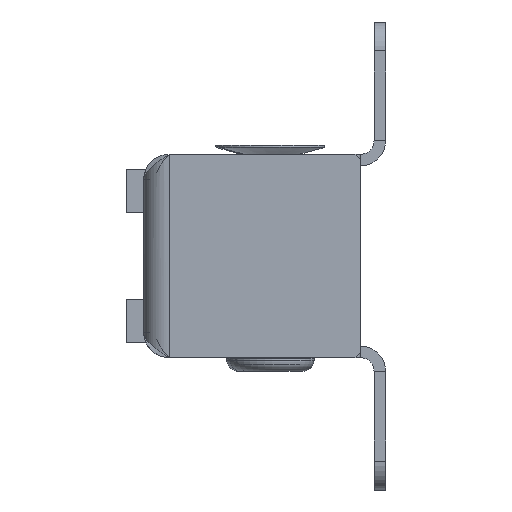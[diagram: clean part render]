
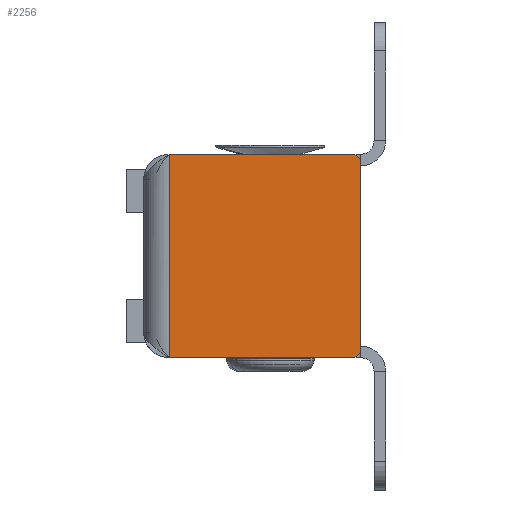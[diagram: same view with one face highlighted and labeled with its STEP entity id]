
A CAD part, left-side view. The second image highlights one B-rep face of the part: STEP entity #2256.
In plain terms, the highlighted planar face has unit normal (-1, 0, 0).
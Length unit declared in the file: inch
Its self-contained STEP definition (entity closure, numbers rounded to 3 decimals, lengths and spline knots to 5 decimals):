
#522 = DIRECTION ( 'NONE',  ( 0., 0., -1. ) ) ;
#552 = CARTESIAN_POINT ( 'NONE',  ( -9., 0.3775, 0.44062 ) ) ;
#721 = VERTEX_POINT ( 'NONE', #11559 ) ;
#1137 = DIRECTION ( 'NONE',  ( -1., 0., 0. ) ) ;
#1217 = ORIENTED_EDGE ( 'NONE', *, *, #12817, .F. ) ;
#2217 = CARTESIAN_POINT ( 'NONE',  ( -9., -0.42125, 0.40937 ) ) ;
#2256 = ADVANCED_FACE ( 'NONE', ( #10776 ), #9062, .T. ) ;
#2503 = CARTESIAN_POINT ( 'NONE',  ( -9., 0.3775, -0.44062 ) ) ;
#2553 = CARTESIAN_POINT ( 'NONE',  ( -9., 0.3775, -0.33062 ) ) ;
#2771 = CARTESIAN_POINT ( 'NONE',  ( -9., -0.42125, -0.44062 ) ) ;
#2774 = CIRCLE ( 'NONE', #7613, 0.03125 ) ;
#2869 = VERTEX_POINT ( 'NONE', #10206 ) ;
#2912 = CARTESIAN_POINT ( 'NONE',  ( -9., -0.42125, -0.40937 ) ) ;
#3115 = AXIS2_PLACEMENT_3D ( 'NONE', #2217, #1137, #12160 ) ;
#3548 = DIRECTION ( 'NONE',  ( 0., -1., 0. ) ) ;
#3731 = EDGE_CURVE ( 'NONE', #6107, #721, #11244, .T. ) ;
#3953 = DIRECTION ( 'NONE',  ( -1., 0., 0. ) ) ;
#4206 = LINE ( 'NONE', #2503, #10443 ) ;
#4213 = EDGE_CURVE ( 'NONE', #2869, #5687, #4206, .T. ) ;
#4763 = ORIENTED_EDGE ( 'NONE', *, *, #4213, .T. ) ;
#4776 = LINE ( 'NONE', #2553, #10552 ) ;
#4966 = ORIENTED_EDGE ( 'NONE', *, *, #8987, .T. ) ;
#5233 = CARTESIAN_POINT ( 'NONE',  ( -9., -0.4525, -0.40937 ) ) ;
#5687 = VERTEX_POINT ( 'NONE', #2771 ) ;
#5962 = LINE ( 'NONE', #552, #10353 ) ;
#6107 = VERTEX_POINT ( 'NONE', #10643 ) ;
#6225 = ORIENTED_EDGE ( 'NONE', *, *, #3731, .T. ) ;
#6260 = DIRECTION ( 'NONE',  ( -1., 0., 0. ) ) ;
#7279 = DIRECTION ( 'NONE',  ( 0., 1., 0. ) ) ;
#7396 = VERTEX_POINT ( 'NONE', #12477 ) ;
#7466 = VECTOR ( 'NONE', #522, 39.37008 ) ;
#7613 = AXIS2_PLACEMENT_3D ( 'NONE', #2912, #3953, #12841 ) ;
#7620 = DIRECTION ( 'NONE',  ( 0., 0., -1. ) ) ;
#7694 = AXIS2_PLACEMENT_3D ( 'NONE', #12322, #6260, #7279 ) ;
#8787 = VERTEX_POINT ( 'NONE', #5233 ) ;
#8925 = EDGE_LOOP ( 'NONE', ( #4763, #4966, #11247, #6225, #1217, #12789 ) ) ;
#8987 = EDGE_CURVE ( 'NONE', #5687, #8787, #2774, .T. ) ;
#9062 = PLANE ( 'NONE',  #7694 ) ;
#9182 = EDGE_CURVE ( 'NONE', #6107, #8787, #9963, .T. ) ;
#9598 = DIRECTION ( 'NONE',  ( 0., -1., 0. ) ) ;
#9963 = LINE ( 'NONE', #11535, #7466 ) ;
#10206 = CARTESIAN_POINT ( 'NONE',  ( -9., 0.3775, -0.44062 ) ) ;
#10334 = EDGE_CURVE ( 'NONE', #7396, #2869, #4776, .T. ) ;
#10353 = VECTOR ( 'NONE', #3548, 39.37008 ) ;
#10443 = VECTOR ( 'NONE', #9598, 39.37008 ) ;
#10552 = VECTOR ( 'NONE', #7620, 39.37008 ) ;
#10643 = CARTESIAN_POINT ( 'NONE',  ( -9., -0.4525, 0.40937 ) ) ;
#10776 = FACE_OUTER_BOUND ( 'NONE', #8925, .T. ) ;
#11244 = CIRCLE ( 'NONE', #3115, 0.03125 ) ;
#11247 = ORIENTED_EDGE ( 'NONE', *, *, #9182, .F. ) ;
#11535 = CARTESIAN_POINT ( 'NONE',  ( -9., -0.4525, -0.33062 ) ) ;
#11559 = CARTESIAN_POINT ( 'NONE',  ( -9., -0.42125, 0.44062 ) ) ;
#12160 = DIRECTION ( 'NONE',  ( 0., 1., 0. ) ) ;
#12322 = CARTESIAN_POINT ( 'NONE',  ( -9., 0.4375, -0.33062 ) ) ;
#12477 = CARTESIAN_POINT ( 'NONE',  ( -9., 0.3775, 0.44062 ) ) ;
#12789 = ORIENTED_EDGE ( 'NONE', *, *, #10334, .T. ) ;
#12817 = EDGE_CURVE ( 'NONE', #7396, #721, #5962, .T. ) ;
#12841 = DIRECTION ( 'NONE',  ( 0., 1., 0. ) ) ;
